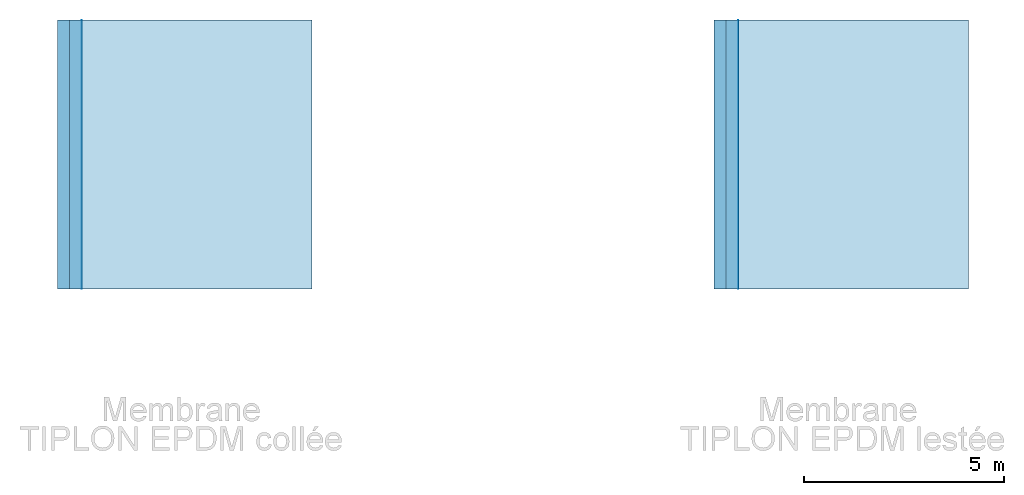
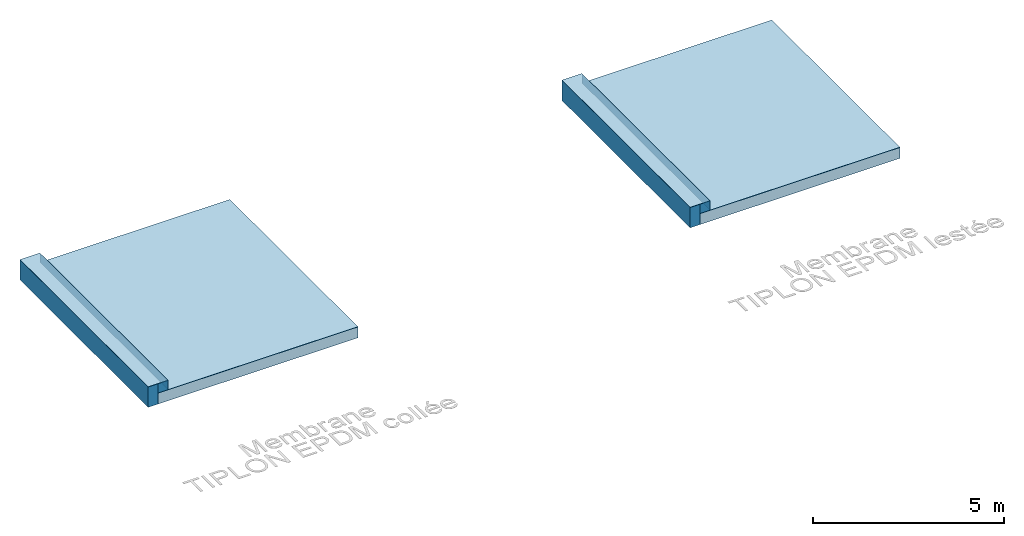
# One storey, incomplete: 6 slabs, 6 walls, 6 elements without a shape of their own.
"""IFC2X3 building model written with IfcOpenShell, lengths in millimetres."""

from ifc_helpers import new_model, entity, si_unit, converted_unit, direction, frame, frame_2d, origin, origin_2d_with_axis, place, context, subcontext, project, spatial, rectangle, extrude, clip, halfspace, material, layer, layer_set, layer_usage, type_object, element, aggregate, save


model = new_model("IFC2X3")

# Units and contexts
model_context = context("Model", 3, precision=0.01, world=origin(), true_north=direction((6.123233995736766e-17, 1.0)))
body_context = subcontext(model_context, "Body", "Model", "MODEL_VIEW")
ifc_project = project(units=[si_unit("LENGTHUNIT", "METRE", prefix="MILLI"), converted_unit("PLANEANGLEUNIT", "DEGREE", entity("IfcPlaneAngleMeasure", 0.017453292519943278), si_unit("PLANEANGLEUNIT", "RADIAN"), dimensions=[0, 0, 0, 0, 0, 0, 0]), si_unit("AREAUNIT", "SQUARE_METRE")], contexts=[model_context])

# Site, building, storey
site_placement = place(None, origin())
site = spatial("IfcSite", under=ifc_project, at=site_placement, Name="Default", CompositionType="ELEMENT")
building_placement = place(site_placement, origin())
building = spatial("IfcBuilding", under=site, at=building_placement, CompositionType="ELEMENT")
storey_placement = place(building_placement, origin())
storey = spatial("IfcBuildingStorey", under=building, at=storey_placement, Name="Niveau 1", CompositionType="ELEMENT", Elevation=0.0)

# Roof, slab
ifc_material_1 = material(Name="Membrane Tiplon EPDM collée_Partie courante")
ifc_layer_1 = layer(ifc_material_1, 1.5)
ifc_material_2 = material(Name="Adhésif de contact")
ifc_layer_2 = layer(ifc_material_2, 1.1)
ifc_layer_set_1 = layer_set([ifc_layer_1, ifc_layer_2], Name="Toit de base:Membrane Tiplon EPDM Partie courante collée")
roof_1_placement = place(storey_placement, frame((6837.3553681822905, 5160.491318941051, 135.20000000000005)))
roof_1 = element("IfcRoof", 1, at=roof_1_placement, inside=storey, material=ifc_layer_set_1, Name="Toit de base:Membrane Tiplon EPDM Partie courante collée", ObjectType="Toit de base:Membrane Tiplon EPDM Partie courante collée", ShapeType="NOTDEFINED")
type_product_1 = type_object("IfcTypeProduct", Name="Toit de base:Membrane Tiplon EPDM Partie courante collée")
slab_1_placement = place(roof_1_placement, origin())
slab_1 = element("IfcSlab", 2, at=slab_1_placement, type_object=type_product_1, material=ifc_layer_set_1, Name="Toit de base:Membrane Tiplon EPDM Partie courante collée", ObjectType="Toit de base:Membrane Tiplon EPDM Partie courante collée", PredefinedType="ROOF", context=body_context, shape_type="SweptSolid", body=[
    extrude(rectangle(XDim=6714.46153846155, YDim=5746.950000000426, at=frame_2d((0.0, 0.0), x_axis=(0.0, 1.0))), frame((2873.475000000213, 3357.230769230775, 0.0)), (0.0, 0.0, 1.0), 2.600000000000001),
])
aggregate(roof_1, [slab_1])

ifc_material_3 = material(Name="Film de protection polyester")
ifc_layer_3 = layer(ifc_material_3, 0.8)
ifc_material_4 = material(Name="Membrane Tiplon EPDM lestée_Partie courante")
ifc_layer_4 = layer(ifc_material_4, 1.5)
ifc_layer_set_2 = layer_set([ifc_layer_3, ifc_layer_4], Name="Toit de base:Membrane Tiplon EPDM Partie courante lestée")
roof_2_placement = place(storey_placement, frame((23232.555368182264, 5160.6254592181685, 135.20000000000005)))
roof_2 = element("IfcRoof", 3, at=roof_2_placement, inside=storey, material=ifc_layer_set_2, Name="Toit de base:Membrane Tiplon EPDM Partie courante lestée", ObjectType="Toit de base:Membrane Tiplon EPDM Partie courante lestée", ShapeType="NOTDEFINED")
type_product_2 = type_object("IfcTypeProduct", Name="Toit de base:Membrane Tiplon EPDM Partie courante lestée")
slab_2_placement = place(roof_2_placement, origin())
slab_2 = element("IfcSlab", 4, at=slab_2_placement, type_object=type_product_2, material=ifc_layer_set_2, Name="Toit de base:Membrane Tiplon EPDM Partie courante lestée", ObjectType="Toit de base:Membrane Tiplon EPDM Partie courante lestée", PredefinedType="ROOF", context=body_context, shape_type="SweptSolid", body=[
    extrude(rectangle(XDim=6714.46153846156, YDim=5746.95000000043, at=frame_2d((0.0, 4.547473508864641e-13), x_axis=(0.0, 1.0))), frame((2873.475000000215, 3357.2307692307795, 0.0)), (0.0, 0.0, 1.0), 2.3000000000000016),
])
aggregate(roof_2, [slab_2])

ifc_material_5 = material(Name="Membrane Tiplon EPDM collée_Acrotère/Relevé")
ifc_layer_5 = layer(ifc_material_5, 1.5)
ifc_layer_6 = layer(ifc_material_2, 1.1)
ifc_layer_set_3 = layer_set([ifc_layer_5, ifc_layer_6], Name="Toit de base:Membrane Tiplon EPDM_Acrotère")
roof_3_placement = place(storey_placement, frame((6237.330529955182, 5160.587790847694, 435.2)))
roof_3 = element("IfcRoof", 5, at=roof_3_placement, inside=storey, material=ifc_layer_set_3, Name="Toit de base:Membrane Tiplon EPDM_Acrotère", ObjectType="Toit de base:Membrane Tiplon EPDM_Acrotère", ShapeType="NOTDEFINED")
type_product_3 = type_object("IfcTypeProduct", Name="Toit de base:Membrane Tiplon EPDM_Acrotère")
slab_3_placement = place(roof_3_placement, origin())
slab_3 = element("IfcSlab", 6, at=slab_3_placement, type_object=type_product_3, material=ifc_layer_set_3, Name="Toit de base:Membrane Tiplon EPDM_Acrotère", ObjectType="Toit de base:Membrane Tiplon EPDM_Acrotère", PredefinedType="ROOF", context=body_context, shape_type="SweptSolid", body=[
    extrude(rectangle(XDim=603.3000000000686, YDim=6714.461538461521, at=frame_2d((0.0, 4.547473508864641e-13), x_axis=(1.0, 0.0))), frame((301.6500000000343, 3357.23076923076, 0.0)), (0.0, 0.0, 1.0), 2.600000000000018),
])
aggregate(roof_3, [slab_3])

roof_4_placement = place(storey_placement, frame((22632.497433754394, 5160.679768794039, 435.2)))
roof_4 = element("IfcRoof", 7, at=roof_4_placement, inside=storey, material=ifc_layer_set_3, Name="Toit de base:Membrane Tiplon EPDM_Acrotère", ObjectType="Toit de base:Membrane Tiplon EPDM_Acrotère", ShapeType="NOTDEFINED")
slab_4_placement = place(roof_4_placement, origin())
slab_4 = element("IfcSlab", 8, at=slab_4_placement, type_object=type_product_3, material=ifc_layer_set_3, Name="Toit de base:Membrane Tiplon EPDM_Acrotère", ObjectType="Toit de base:Membrane Tiplon EPDM_Acrotère", PredefinedType="ROOF", context=body_context, shape_type="SweptSolid", body=[
    extrude(rectangle(XDim=603.3000000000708, YDim=6714.461538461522, at=origin_2d_with_axis()), frame((301.6500000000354, 3357.230769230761, 0.0)), (0.0, 0.0, 1.0), 2.600000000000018),
])
aggregate(roof_4, [slab_4])

ifc_material_6 = material(Name="Isolation")
ifc_layer_7 = layer(ifc_material_6, 100.0)
ifc_material_7 = material(Name="Pare vapeur")
ifc_layer_8 = layer(ifc_material_7, 0.8)
ifc_material_8 = material(Name="Béton de pente")
ifc_layer_9 = layer(ifc_material_8, 50.0)
ifc_material_9 = material(Name="Structure porteuse")
ifc_layer_10 = layer(ifc_material_9, 200.0)
ifc_layer_set_4 = layer_set([ifc_layer_7, ifc_layer_8, ifc_layer_9, ifc_layer_10], Name="Toit de base:Toit-Support autorisé")
roof_5_placement = place(storey_placement, frame((6537.408916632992, 5161.058915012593, -215.60000000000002)))
roof_5 = element("IfcRoof", 9, at=roof_5_placement, inside=storey, material=ifc_layer_set_4, Name="Toit de base:Toit-Support autorisé", ObjectType="Toit de base:Toit-Support autorisé", ShapeType="NOTDEFINED")
type_product_4 = type_object("IfcTypeProduct", Name="Toit de base:Toit-Support autorisé")
slab_5_placement = place(roof_5_placement, origin())
slab_5 = element("IfcSlab", 10, at=slab_5_placement, type_object=type_product_4, material=ifc_layer_set_4, Name="Toit de base:Toit-Support autorisé", ObjectType="Toit de base:Toit-Support autorisé", PredefinedType="ROOF", context=body_context, shape_type="SweptSolid", body=[
    extrude(rectangle(XDim=6046.950000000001, YDim=6714.461538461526, at=frame_2d((-1.1368683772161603e-12, 0.0), x_axis=(1.0, 0.0))), frame((3023.4750000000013, 3357.230769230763, 0.0)), (0.0, 0.0, 1.0), 350.80000000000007),
])
aggregate(roof_5, [slab_5])

roof_6_placement = place(storey_placement, frame((22932.568981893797, 5160.81642946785, -215.60000000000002)))
roof_6 = element("IfcRoof", 11, at=roof_6_placement, inside=storey, material=ifc_layer_set_4, Name="Toit de base:Toit-Support autorisé", ObjectType="Toit de base:Toit-Support autorisé", ShapeType="NOTDEFINED")
slab_6_placement = place(roof_6_placement, origin())
slab_6 = element("IfcSlab", 12, at=slab_6_placement, type_object=type_product_4, material=ifc_layer_set_4, Name="Toit de base:Toit-Support autorisé", ObjectType="Toit de base:Toit-Support autorisé", PredefinedType="ROOF", context=body_context, shape_type="SweptSolid", body=[
    extrude(rectangle(XDim=6046.950000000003, YDim=6714.461538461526, at=frame_2d((2.2737367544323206e-12, 0.0), x_axis=(1.0, 0.0))), frame((3023.474999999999, 3357.230769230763, 0.0)), (0.0, 0.0, 1.0), 350.80000000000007),
])
aggregate(roof_6, [slab_6])

# Walls
ifc_layer_11 = layer(ifc_material_6, 100.0)
ifc_material_10 = material(Name="Maçonnerie ascendante")
ifc_layer_12 = layer(ifc_material_10, 200.0)
ifc_layer_set_5 = layer_set([ifc_layer_11, ifc_layer_12], Name="Mur de base:Mur 1")
ifc_layer_usage_1 = layer_usage(ifc_layer_set_5, "AXIS2", "NEGATIVE", 150.00000000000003)
wall_type_1 = type_object("IfcWallType", Name="Mur de base:Mur 1", PredefinedType="STANDARD", material=ifc_layer_set_5)
wall_1_placement = place(storey_placement, frame((6387.355368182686, 11874.952857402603, -215.6), z_axis=(0.0, 0.0, 1.0), x_axis=(0.0, -1.0, 0.0)))
element("IfcWallStandardCase", 13, at=wall_1_placement, inside=storey, type_object=wall_type_1, material=ifc_layer_usage_1, Name="Mur de base:Mur 1", ObjectType="Mur de base:Mur 1", context=body_context, shape_type="SweptSolid", body=[
    extrude(rectangle(XDim=6714.461538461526, YDim=300.0000000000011, at=frame_2d((3357.230769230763, 0.0), x_axis=(-1.0, 0.0))), origin(), (0.0, 0.0, 1.0), 650.8000000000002),
])
ifc_layer_usage_2 = layer_usage(ifc_layer_set_5, "AXIS2", "NEGATIVE", 150.00000000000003)
wall_2_placement = place(storey_placement, frame((6687.355368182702, 11874.952857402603, 135.20000000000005), z_axis=(0.0, 0.0, 1.0), x_axis=(0.0, -1.0, 0.0)))
element("IfcWallStandardCase", 14, at=wall_2_placement, inside=storey, type_object=wall_type_1, material=ifc_layer_usage_2, Name="Mur de base:Mur 1", ObjectType="Mur de base:Mur 1", context=body_context, shape_type="Clipping", body=[
    clip(extrude(rectangle(XDim=6714.461538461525, YDim=300.0000000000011, at=frame_2d((3357.2307692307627, 0.0), x_axis=(-1.0, 0.0))), origin(), (0.0, 0.0, 1.0), 300.0), halfspace(frame((6714.461538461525, -150.0, 0.0), z_axis=(0.0, 0.0, -1.0), x_axis=(0.0, 1.0, 0.0)), False)),
])
ifc_layer_usage_3 = layer_usage(ifc_layer_set_5, "AXIS2", "NEGATIVE", 150.00000000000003)
wall_3_placement = place(storey_placement, frame((22782.555368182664, 11875.08699767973, -215.6), z_axis=(0.0, 0.0, 1.0), x_axis=(0.0, -1.0, 0.0)))
element("IfcWallStandardCase", 15, at=wall_3_placement, inside=storey, type_object=wall_type_1, material=ifc_layer_usage_3, Name="Mur de base:Mur 1", ObjectType="Mur de base:Mur 1", context=body_context, shape_type="SweptSolid", body=[
    extrude(rectangle(XDim=6714.461538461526, YDim=300.00000000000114, at=frame_2d((3357.230769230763, -1.6200374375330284e-12), x_axis=(-1.0, 0.0))), origin(), (0.0, 0.0, 1.0), 650.8000000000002),
])
ifc_layer_usage_4 = layer_usage(ifc_layer_set_5, "AXIS2", "NEGATIVE", 150.00000000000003)
wall_4_placement = place(storey_placement, frame((23082.55536818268, 11875.086997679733, 135.20000000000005), z_axis=(0.0, 0.0, 1.0), x_axis=(0.0, -1.0, 0.0)))
element("IfcWallStandardCase", 16, at=wall_4_placement, inside=storey, type_object=wall_type_1, material=ifc_layer_usage_4, Name="Mur de base:Mur 1", ObjectType="Mur de base:Mur 1", context=body_context, shape_type="Clipping", body=[
    clip(extrude(rectangle(XDim=6714.461538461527, YDim=300.0000000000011, at=frame_2d((3357.2307692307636, 5.400124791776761e-13), x_axis=(-1.0, 0.0))), origin(), (0.0, 0.0, 1.0), 300.0), halfspace(frame((6714.461538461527, -150.0, 0.0), z_axis=(0.0, 0.0, -1.0), x_axis=(0.0, 1.0, 0.0)), False)),
])
ifc_layer_13 = layer(ifc_material_5, 1.5)
ifc_layer_14 = layer(ifc_material_2, 1.1)
ifc_layer_set_6 = layer_set([ifc_layer_13, ifc_layer_14], Name="Mur de base:Membrane Tiplon EPDM Relevé collé")
ifc_layer_usage_5 = layer_usage(ifc_layer_set_6, "AXIS2", "NEGATIVE", 1.3)
wall_type_2 = type_object("IfcWallType", Name="Mur de base:Membrane Tiplon EPDM Relevé collé", PredefinedType="STANDARD", material=ifc_layer_set_6)
wall_5_placement = place(storey_placement, frame((6839.005368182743, 11874.9528574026, 138.50000000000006), z_axis=(0.0, 0.0, 1.0), x_axis=(0.0, -1.0, 0.0)))
element("IfcWallStandardCase", 17, at=wall_5_placement, inside=storey, type_object=wall_type_2, material=ifc_layer_usage_5, Name="Mur de base:Membrane Tiplon EPDM Relevé collé", ObjectType="Mur de base:Membrane Tiplon EPDM Relevé collé", context=body_context, shape_type="SweptSolid", body=[
    extrude(rectangle(XDim=6714.461538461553, YDim=2.599999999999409, at=frame_2d((3357.2307692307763, 1.887379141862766e-14), x_axis=(-1.0, 0.0))), origin(), (0.0, 0.0, 1.0), 296.7000000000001),
])
ifc_layer_usage_6 = layer_usage(ifc_layer_set_6, "AXIS2", "NEGATIVE", 1.3)
wall_6_placement = place(storey_placement, frame((23234.205368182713, 11875.08699767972, 138.20000000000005), z_axis=(0.0, 0.0, 1.0), x_axis=(0.0, -1.0, 0.0)))
element("IfcWallStandardCase", 18, at=wall_6_placement, inside=storey, type_object=wall_type_2, material=ifc_layer_usage_6, Name="Mur de base:Membrane Tiplon EPDM Relevé collé", ObjectType="Mur de base:Membrane Tiplon EPDM Relevé collé", context=body_context, shape_type="SweptSolid", body=[
    extrude(rectangle(XDim=6714.461538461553, YDim=2.599999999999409, at=frame_2d((3357.2307692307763, 1.887379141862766e-14), x_axis=(-1.0, 0.0))), origin(), (0.0, 0.0, 1.0), 297.0000000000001),
])

save(model, "model.ifc")
